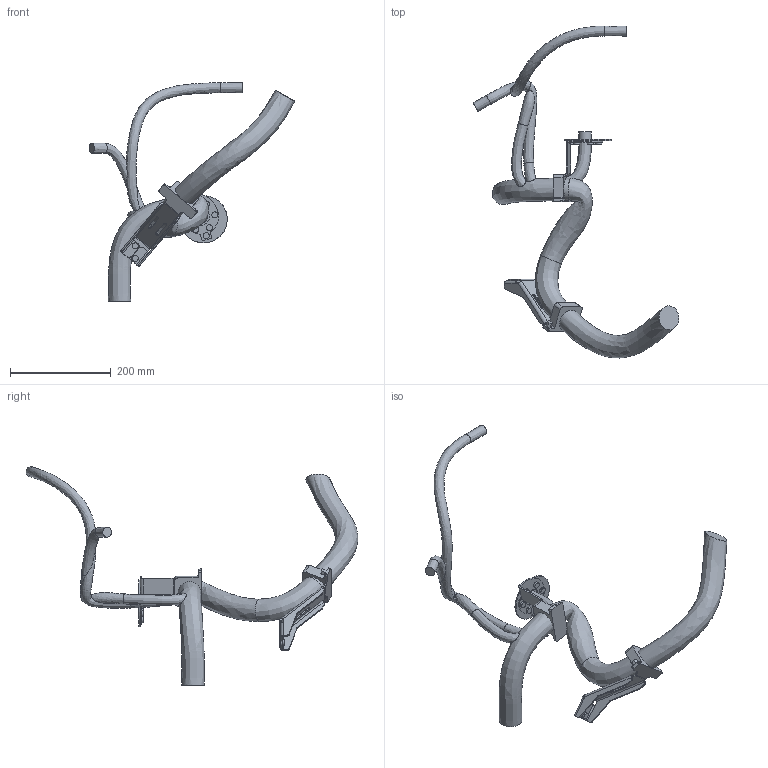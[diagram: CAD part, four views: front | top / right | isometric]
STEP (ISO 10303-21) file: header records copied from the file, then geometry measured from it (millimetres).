
FILE_DESCRIPTION (( 'STEP AP214' ), '1' );
FILE_NAME ('IRB6740-MH3_260kg-300_OC_00_LINK01m_CABLE.step', '2026-05-07T13:28:48', ( '' ), ( '' ), 'SwSTEP 2.0', 'SolidWorks 2024', '' );
FILE_SCHEMA (( 'AUTOMOTIVE_DESIGN' ));
Length unit declared in the file: millimetre
Products named in the file (1): IRB6740-MH3_260kg-300_OC_00_LINK01m_CABLE
Bounding box: 409.21 x 660.44 x 434.37 mm (x, y, z)
Volume: 1950645.6 mm3; surface area: 260485.6 mm2
Topology: 1 solids, 1 shells, 255 faces, 652 edges, 412 vertices
Faces by surface type: plane 148, cylinder 92, bspline 15
Full cylindrical faces by diameter (mm): 12 x9, 25 x1, 34 x1, 45 x1, 94 x1
Entity records: 14094 total; most frequent: CARTESIAN_POINT 5241, DIRECTION 1254, ORIENTED_EDGE 1228, EDGE_CURVE 614, AXIS2_PLACEMENT_3D 434, VERTEX_POINT 400, LINE 386, VECTOR 386
